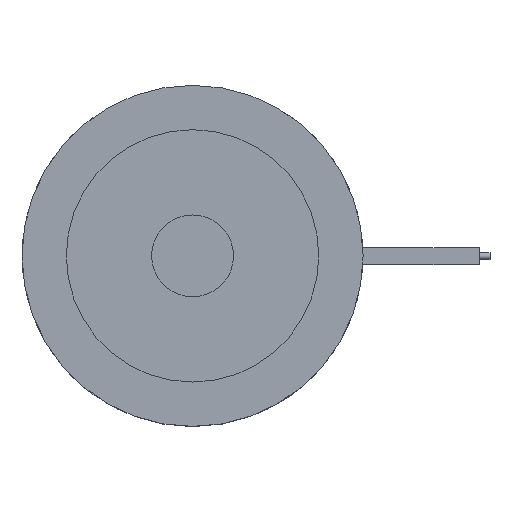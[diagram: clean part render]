
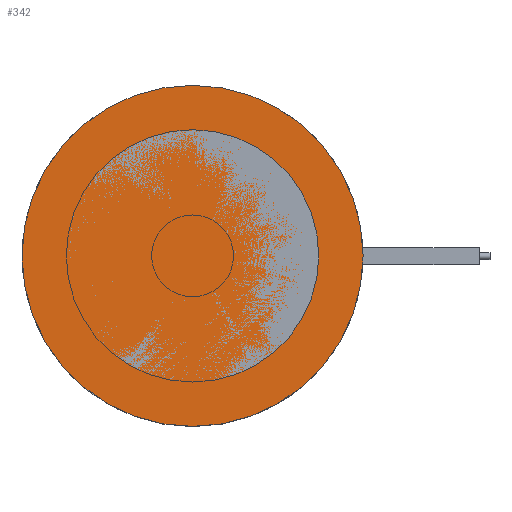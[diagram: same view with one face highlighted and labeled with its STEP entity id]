
A CAD part, top view. The second image highlights one B-rep face of the part: STEP entity #342.
In plain terms, the highlighted planar face has unit normal (0, 0, 1).
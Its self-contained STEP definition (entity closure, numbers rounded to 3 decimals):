
#342=ADVANCED_FACE('',(#447),#409,.F.);
#409=PLANE('',#1207);
#447=FACE_OUTER_BOUND('',#537,.T.);
#537=EDGE_LOOP('',(#681));
#681=ORIENTED_EDGE('',*,*,#994,.F.);
#892=VERTEX_POINT('',#1772);
#994=EDGE_CURVE('',#892,#892,#1105,.T.);
#1105=CIRCLE('',#1206,25.);
#1206=AXIS2_PLACEMENT_3D('',#1771,#1423,#1424);
#1207=AXIS2_PLACEMENT_3D('',#1773,#1425,#1426);
#1423=DIRECTION('',(0.,0.,-1.));
#1424=DIRECTION('',(-1.,0.,0.));
#1425=DIRECTION('',(0.,0.,-1.));
#1426=DIRECTION('',(-1.,0.,0.));
#1771=CARTESIAN_POINT('',(0.,0.,0.));
#1772=CARTESIAN_POINT('',(-25.,0.,0.));
#1773=CARTESIAN_POINT('',(0.,0.,0.));
